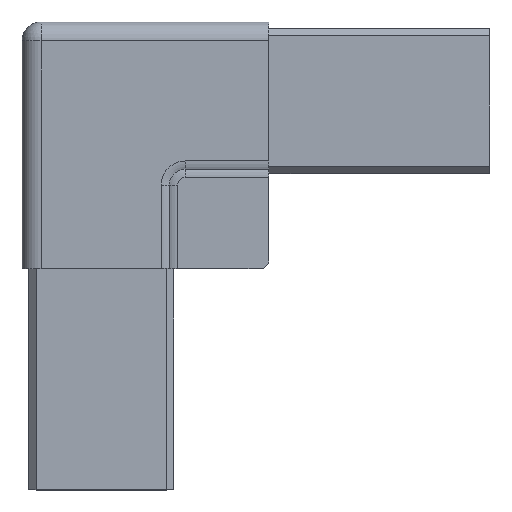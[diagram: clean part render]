
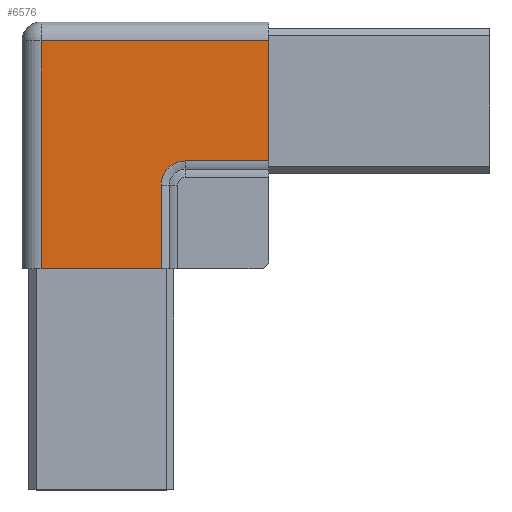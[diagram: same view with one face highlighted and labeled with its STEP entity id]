
A CAD part, top view. The second image highlights one B-rep face of the part: STEP entity #6576.
In plain terms, the highlighted planar face has unit normal (0, 0, 1).
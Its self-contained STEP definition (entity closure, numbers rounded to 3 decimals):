
#67 = LINE ( 'NONE', #1038, #181 ) ;
#96 = DIRECTION ( 'NONE',  ( 0., -1., 0. ) ) ;
#107 = CARTESIAN_POINT ( 'NONE',  ( 13.3, -13.3, 12.5 ) ) ;
#145 = ORIENTED_EDGE ( 'NONE', *, *, #956, .T. ) ;
#181 = VECTOR ( 'NONE', #5644, 1000. ) ;
#243 = CARTESIAN_POINT ( 'NONE',  ( 9.492, -13.3, 12.5 ) ) ;
#475 = VERTEX_POINT ( 'NONE', #4184 ) ;
#483 = EDGE_CURVE ( 'NONE', #475, #511, #2699, .T. ) ;
#511 = VERTEX_POINT ( 'NONE', #2870 ) ;
#604 = CARTESIAN_POINT ( 'NONE',  ( 26.5, -26.5, 12.5 ) ) ;
#672 = PLANE ( 'NONE',  #6642 ) ;
#800 = EDGE_CURVE ( 'NONE', #3202, #5652, #3668, .T. ) ;
#825 = VECTOR ( 'NONE', #5350, 1000. ) ;
#956 = EDGE_CURVE ( 'NONE', #5654, #5950, #6088, .T. ) ;
#1017 = CARTESIAN_POINT ( 'NONE',  ( 9.492, -13.3, 12.5 ) ) ;
#1027 = LINE ( 'NONE', #3605, #2468 ) ;
#1038 = CARTESIAN_POINT ( 'NONE',  ( 26.5, -26.5, 12.5 ) ) ;
#1406 = DIRECTION ( 'NONE',  ( 1., 0., 0. ) ) ;
#1659 = CARTESIAN_POINT ( 'NONE',  ( -9.5, -26.5, 12.5 ) ) ;
#1668 = DIRECTION ( 'NONE',  ( 0., 0., -1. ) ) ;
#1752 = EDGE_CURVE ( 'NONE', #511, #2137, #2765, .T. ) ;
#1810 = VECTOR ( 'NONE', #1406, 1000. ) ;
#1879 = EDGE_CURVE ( 'NONE', #5950, #475, #67, .T. ) ;
#1882 = EDGE_LOOP ( 'NONE', ( #5674, #145, #5252, #3112, #6300, #2877, #4246 ) ) ;
#2137 = VERTEX_POINT ( 'NONE', #5918 ) ;
#2180 = DIRECTION ( 'NONE',  ( 0., 0., -1. ) ) ;
#2468 = VECTOR ( 'NONE', #5135, 1000. ) ;
#2699 = LINE ( 'NONE', #6243, #2989 ) ;
#2765 = LINE ( 'NONE', #1659, #6020 ) ;
#2870 = CARTESIAN_POINT ( 'NONE',  ( -9.5, 9.5, 12.5 ) ) ;
#2876 = CIRCLE ( 'NONE', #3730, 3.808 ) ;
#2877 = ORIENTED_EDGE ( 'NONE', *, *, #3693, .F. ) ;
#2910 = CARTESIAN_POINT ( 'NONE',  ( 26.5, -9.492, 12.5 ) ) ;
#2989 = VECTOR ( 'NONE', #3170, 1000. ) ;
#3112 = ORIENTED_EDGE ( 'NONE', *, *, #483, .T. ) ;
#3170 = DIRECTION ( 'NONE',  ( -1., 0., 0. ) ) ;
#3202 = VERTEX_POINT ( 'NONE', #1017 ) ;
#3605 = CARTESIAN_POINT ( 'NONE',  ( 26.5, -26.5, 12.5 ) ) ;
#3668 = LINE ( 'NONE', #243, #825 ) ;
#3687 = DIRECTION ( 'NONE',  ( -1., 0., 0. ) ) ;
#3693 = EDGE_CURVE ( 'NONE', #5652, #2137, #1027, .T. ) ;
#3730 = AXIS2_PLACEMENT_3D ( 'NONE', #107, #2180, #3687 ) ;
#4184 = CARTESIAN_POINT ( 'NONE',  ( 26.5, 9.5, 12.5 ) ) ;
#4246 = ORIENTED_EDGE ( 'NONE', *, *, #800, .F. ) ;
#5135 = DIRECTION ( 'NONE',  ( -1., 0., 0. ) ) ;
#5252 = ORIENTED_EDGE ( 'NONE', *, *, #1879, .T. ) ;
#5314 = DIRECTION ( 'NONE',  ( -1., 0., 0. ) ) ;
#5344 = FACE_OUTER_BOUND ( 'NONE', #1882, .T. ) ;
#5350 = DIRECTION ( 'NONE',  ( 0., -1., 0. ) ) ;
#5529 = CARTESIAN_POINT ( 'NONE',  ( 13.3, -9.492, 12.5 ) ) ;
#5644 = DIRECTION ( 'NONE',  ( 0., 1., 0. ) ) ;
#5652 = VERTEX_POINT ( 'NONE', #6144 ) ;
#5654 = VERTEX_POINT ( 'NONE', #6651 ) ;
#5674 = ORIENTED_EDGE ( 'NONE', *, *, #6546, .T. ) ;
#5918 = CARTESIAN_POINT ( 'NONE',  ( -9.5, -26.5, 12.5 ) ) ;
#5950 = VERTEX_POINT ( 'NONE', #2910 ) ;
#6020 = VECTOR ( 'NONE', #96, 1000. ) ;
#6088 = LINE ( 'NONE', #5529, #1810 ) ;
#6144 = CARTESIAN_POINT ( 'NONE',  ( 9.492, -26.5, 12.5 ) ) ;
#6243 = CARTESIAN_POINT ( 'NONE',  ( 26.5, 9.5, 12.5 ) ) ;
#6300 = ORIENTED_EDGE ( 'NONE', *, *, #1752, .T. ) ;
#6546 = EDGE_CURVE ( 'NONE', #3202, #5654, #2876, .T. ) ;
#6576 = ADVANCED_FACE ( 'NONE', ( #5344 ), #672, .F. ) ;
#6642 = AXIS2_PLACEMENT_3D ( 'NONE', #604, #1668, #5314 ) ;
#6651 = CARTESIAN_POINT ( 'NONE',  ( 13.3, -9.492, 12.5 ) ) ;
